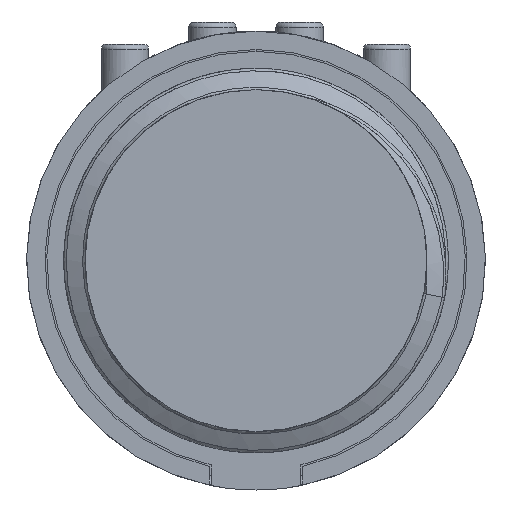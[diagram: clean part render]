
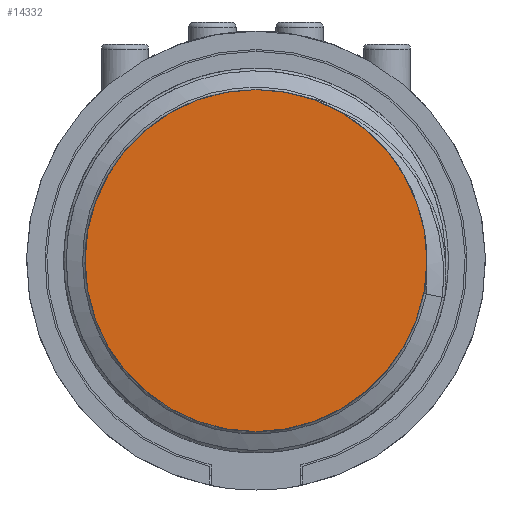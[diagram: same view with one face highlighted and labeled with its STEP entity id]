
A CAD part, front view. The second image highlights one B-rep face of the part: STEP entity #14332.
In plain terms, the highlighted planar face has unit normal (0, -1, 0).
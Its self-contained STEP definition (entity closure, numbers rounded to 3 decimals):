
#10918=CARTESIAN_POINT('',(0.,-10.5,0.));
#10919=DIRECTION('',(0.,1.,0.));
#10920=DIRECTION('',(0.,0.,-1.));
#10921=AXIS2_PLACEMENT_3D('',#10918,#10919,#10920);
#10923=CARTESIAN_POINT('',(0.,-10.5,0.));
#10924=DIRECTION('',(0.,1.,0.));
#10925=DIRECTION('',(0.,0.,1.));
#10926=AXIS2_PLACEMENT_3D('',#10923,#10924,#10925);
#14235=CARTESIAN_POINT('',(0.,-10.5,-9.316));
#14236=CARTESIAN_POINT('',(0.,-10.5,9.316));
#14237=VERTEX_POINT('',#14235);
#14238=VERTEX_POINT('',#14236);
#14321=CARTESIAN_POINT('',(0.,-10.5,0.));
#14322=DIRECTION('',(0.,1.,0.));
#14323=DIRECTION('',(0.,0.,1.));
#14324=AXIS2_PLACEMENT_3D('',#14321,#14322,#14323);
#14325=PLANE('',#14324);
#14327=ORIENTED_EDGE('',*,*,#14326,.T.);
#14329=ORIENTED_EDGE('',*,*,#14328,.T.);
#14330=EDGE_LOOP('',(#14327,#14329));
#14331=FACE_OUTER_BOUND('',#14330,.F.);
#14332=ADVANCED_FACE('',(#14331),#14325,.F.);
#10922=CIRCLE('',#10921,9.316);
#10927=CIRCLE('',#10926,9.316);
#14326=EDGE_CURVE('',#14237,#14238,#10922,.T.);
#14328=EDGE_CURVE('',#14238,#14237,#10927,.T.);
